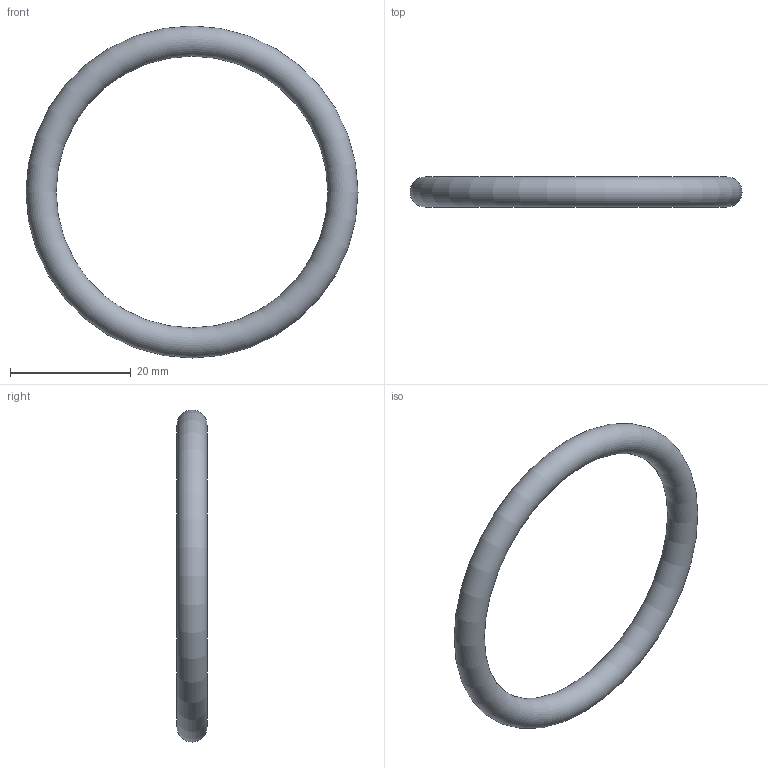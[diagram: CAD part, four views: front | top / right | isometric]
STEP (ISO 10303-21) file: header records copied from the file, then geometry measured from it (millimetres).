
FILE_DESCRIPTION( ( 'STEP AP203' ), '1' );
FILE_NAME( 'C:/Temp/Ganter_Step_05_03_2020/data/3_5/or638/O-Ring OR638-45.00-5.00-70.stp', '2020-03-12T13:44:34', ( 'License CC BY-ND 4.0' ), ( 'CADENAS' ), ' ', 'PARTsolutions', ' ' );
FILE_SCHEMA( ( 'CONFIG_CONTROL_DESIGN' ) );
Length unit declared in the file: millimetre
Products named in the file (1): _O-Ring OR638-45.00-5.00-70
Bounding box: 55 x 5 x 55 mm (x, y, z)
Volume: 3084.3 mm3; surface area: 2467.4 mm2
Topology: 1 solids, 1 shells, 1 faces, 2 edges, 1 vertices
Faces by surface type: torus 1
Entity records: 62 total; most frequent: CC_DESIGN_PERSON_AND_ORGANIZATION_ASSIGNMENT 5, PERSON_AND_ORGANIZATION_ROLE 4, DIRECTION 4, CARTESIAN_POINT 3, DATE_TIME_ROLE 2, CC_DESIGN_DATE_AND_TIME_ASSIGNMENT 2, AXIS2_PLACEMENT_3D 2, DIMENSIONAL_EXPONENTS 2
